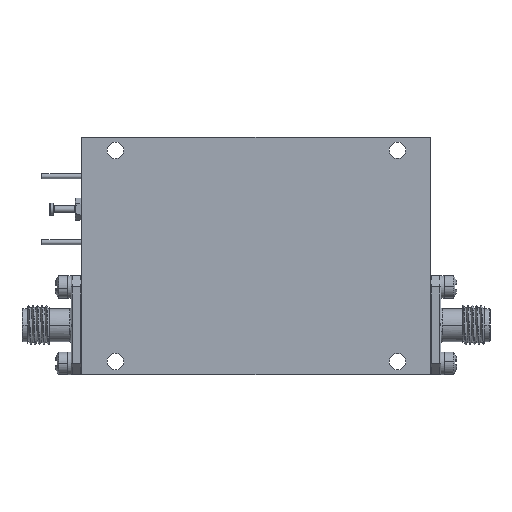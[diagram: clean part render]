
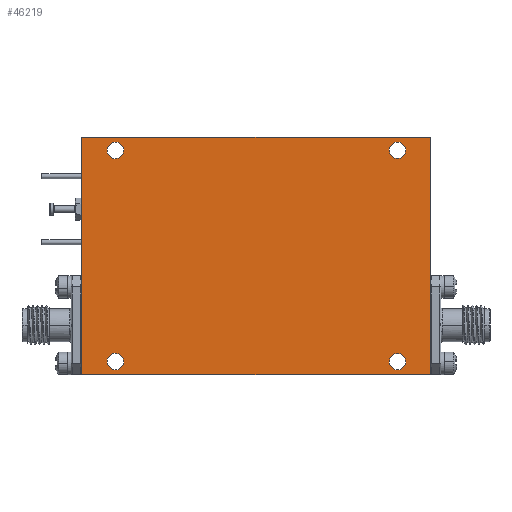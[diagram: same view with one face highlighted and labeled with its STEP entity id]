
A CAD part, front view. The second image highlights one B-rep face of the part: STEP entity #46219.
In plain terms, the highlighted planar face has unit normal (0, -1, 0).
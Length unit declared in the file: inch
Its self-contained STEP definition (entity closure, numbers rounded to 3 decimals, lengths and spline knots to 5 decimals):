
#70 = DIRECTION ( 'NONE',  ( -1., 0., 0. ) ) ;
#364 = CARTESIAN_POINT ( 'NONE',  ( 0.891, -0.392, 0.717 ) ) ;
#413 = CIRCLE ( 'NONE', #2988, 0.052 ) ;
#1249 = CIRCLE ( 'NONE', #27122, 0.052 ) ;
#2005 = CIRCLE ( 'NONE', #51201, 0.052 ) ;
#2864 = DIRECTION ( 'NONE',  ( 0., 1., 0. ) ) ;
#2988 = AXIS2_PLACEMENT_3D ( 'NONE', #35007, #39711, #35254 ) ;
#4227 = ORIENTED_EDGE ( 'NONE', *, *, #34233, .F. ) ;
#4515 = EDGE_CURVE ( 'NONE', #34205, #34588, #2005, .T. ) ;
#4535 = CARTESIAN_POINT ( 'NONE',  ( -1.098, -0.392, -0.748 ) ) ;
#5014 = CIRCLE ( 'NONE', #43380, 0.052 ) ;
#5468 = FACE_BOUND ( 'NONE', #32833, .T. ) ;
#5714 = FACE_BOUND ( 'NONE', #8871, .T. ) ;
#6228 = DIRECTION ( 'NONE',  ( 0., 1., 0. ) ) ;
#6270 = VERTEX_POINT ( 'NONE', #44815 ) ;
#6564 = EDGE_CURVE ( 'NONE', #44704, #47350, #1249, .T. ) ;
#6677 = VERTEX_POINT ( 'NONE', #16974 ) ;
#6903 = VERTEX_POINT ( 'NONE', #28901 ) ;
#7147 = DIRECTION ( 'NONE',  ( 0., 0., 1. ) ) ;
#8112 = DIRECTION ( 'NONE',  ( 0., 0., 1. ) ) ;
#8212 = CARTESIAN_POINT ( 'NONE',  ( 0.891, -0.392, -0.665 ) ) ;
#8871 = EDGE_LOOP ( 'NONE', ( #38789, #35461 ) ) ;
#8984 = EDGE_LOOP ( 'NONE', ( #41508, #32340 ) ) ;
#10712 = DIRECTION ( 'NONE',  ( 0., 0., 1. ) ) ;
#11201 = EDGE_CURVE ( 'NONE', #47350, #44704, #36494, .T. ) ;
#11690 = CARTESIAN_POINT ( 'NONE',  ( -0.885, -0.392, 0.717 ) ) ;
#12063 = DIRECTION ( 'NONE',  ( 0., 0., 1. ) ) ;
#12170 = DIRECTION ( 'NONE',  ( 0., 1., 0. ) ) ;
#12325 = CARTESIAN_POINT ( 'NONE',  ( 0.891, -0.392, 0.665 ) ) ;
#12512 = EDGE_CURVE ( 'NONE', #51239, #14108, #413, .T. ) ;
#13140 = VECTOR ( 'NONE', #40806, 39.37008 ) ;
#13293 = DIRECTION ( 'NONE',  ( 0., 0., -1. ) ) ;
#13741 = DIRECTION ( 'NONE',  ( 0., 0., 1. ) ) ;
#14018 = AXIS2_PLACEMENT_3D ( 'NONE', #41673, #33311, #13741 ) ;
#14108 = VERTEX_POINT ( 'NONE', #39527 ) ;
#15147 = AXIS2_PLACEMENT_3D ( 'NONE', #35353, #43447, #7147 ) ;
#16453 = EDGE_CURVE ( 'NONE', #51582, #6270, #20832, .T. ) ;
#16715 = CARTESIAN_POINT ( 'NONE',  ( -0.885, -0.392, 0.665 ) ) ;
#16886 = VECTOR ( 'NONE', #70, 39.37008 ) ;
#16974 = CARTESIAN_POINT ( 'NONE',  ( 0.891, -0.392, 0.613 ) ) ;
#17485 = PLANE ( 'NONE',  #44224 ) ;
#18939 = CARTESIAN_POINT ( 'NONE',  ( -0.885, -0.392, 0.613 ) ) ;
#19579 = DIRECTION ( 'NONE',  ( 0., 0., 1. ) ) ;
#20787 = CIRCLE ( 'NONE', #26672, 0.052 ) ;
#20832 = LINE ( 'NONE', #21367, #32745 ) ;
#21278 = VECTOR ( 'NONE', #12063, 39.37008 ) ;
#21367 = CARTESIAN_POINT ( 'NONE',  ( 1.098, -0.392, -0.748 ) ) ;
#21454 = CARTESIAN_POINT ( 'NONE',  ( 0.891, -0.392, -0.717 ) ) ;
#21466 = LINE ( 'NONE', #24869, #13140 ) ;
#22142 = ORIENTED_EDGE ( 'NONE', *, *, #12512, .T. ) ;
#22169 = CARTESIAN_POINT ( 'NONE',  ( 0., -0.392, 0. ) ) ;
#23630 = EDGE_CURVE ( 'NONE', #6677, #48557, #5014, .T. ) ;
#24869 = CARTESIAN_POINT ( 'NONE',  ( -1.098, -0.392, 0.748 ) ) ;
#25340 = FACE_OUTER_BOUND ( 'NONE', #31507, .T. ) ;
#26672 = AXIS2_PLACEMENT_3D ( 'NONE', #43073, #2864, #10712 ) ;
#27049 = ORIENTED_EDGE ( 'NONE', *, *, #31253, .F. ) ;
#27122 = AXIS2_PLACEMENT_3D ( 'NONE', #16715, #43622, #47784 ) ;
#28901 = CARTESIAN_POINT ( 'NONE',  ( -1.098, -0.392, 0.748 ) ) ;
#29032 = CIRCLE ( 'NONE', #30682, 0.052 ) ;
#29347 = CARTESIAN_POINT ( 'NONE',  ( -0.885, -0.392, -0.613 ) ) ;
#29391 = EDGE_CURVE ( 'NONE', #37525, #6903, #39742, .T. ) ;
#30682 = AXIS2_PLACEMENT_3D ( 'NONE', #43605, #48296, #19579 ) ;
#31253 = EDGE_CURVE ( 'NONE', #6903, #51582, #21466, .T. ) ;
#31440 = EDGE_CURVE ( 'NONE', #48557, #6677, #29032, .T. ) ;
#31507 = EDGE_LOOP ( 'NONE', ( #48051, #4227, #36921, #27049 ) ) ;
#31892 = CARTESIAN_POINT ( 'NONE',  ( -1.098, -0.392, -0.748 ) ) ;
#32269 = DIRECTION ( 'NONE',  ( 0., 0., 1. ) ) ;
#32340 = ORIENTED_EDGE ( 'NONE', *, *, #6564, .T. ) ;
#32745 = VECTOR ( 'NONE', #13293, 39.37008 ) ;
#32833 = EDGE_LOOP ( 'NONE', ( #22142, #49140 ) ) ;
#33311 = DIRECTION ( 'NONE',  ( 0., 1., 0. ) ) ;
#33412 = FACE_BOUND ( 'NONE', #8984, .T. ) ;
#33512 = EDGE_CURVE ( 'NONE', #34588, #34205, #50978, .T. ) ;
#33990 = ORIENTED_EDGE ( 'NONE', *, *, #31440, .T. ) ;
#34205 = VERTEX_POINT ( 'NONE', #49995 ) ;
#34233 = EDGE_CURVE ( 'NONE', #6270, #37525, #40330, .T. ) ;
#34588 = VERTEX_POINT ( 'NONE', #21454 ) ;
#35007 = CARTESIAN_POINT ( 'NONE',  ( -0.885, -0.392, -0.665 ) ) ;
#35254 = DIRECTION ( 'NONE',  ( 0., 0., 1. ) ) ;
#35353 = CARTESIAN_POINT ( 'NONE',  ( 0.891, -0.392, -0.665 ) ) ;
#35461 = ORIENTED_EDGE ( 'NONE', *, *, #33512, .T. ) ;
#36056 = DIRECTION ( 'NONE',  ( 0., 1., 0. ) ) ;
#36494 = CIRCLE ( 'NONE', #14018, 0.052 ) ;
#36921 = ORIENTED_EDGE ( 'NONE', *, *, #16453, .F. ) ;
#37525 = VERTEX_POINT ( 'NONE', #40208 ) ;
#38789 = ORIENTED_EDGE ( 'NONE', *, *, #4515, .T. ) ;
#39527 = CARTESIAN_POINT ( 'NONE',  ( -0.885, -0.392, -0.717 ) ) ;
#39711 = DIRECTION ( 'NONE',  ( 0., 1., 0. ) ) ;
#39742 = LINE ( 'NONE', #31892, #21278 ) ;
#40208 = CARTESIAN_POINT ( 'NONE',  ( -1.098, -0.392, -0.748 ) ) ;
#40330 = LINE ( 'NONE', #4535, #16886 ) ;
#40806 = DIRECTION ( 'NONE',  ( 1., 0., 0. ) ) ;
#41279 = FACE_BOUND ( 'NONE', #45655, .T. ) ;
#41508 = ORIENTED_EDGE ( 'NONE', *, *, #11201, .T. ) ;
#41673 = CARTESIAN_POINT ( 'NONE',  ( -0.885, -0.392, 0.665 ) ) ;
#43073 = CARTESIAN_POINT ( 'NONE',  ( -0.885, -0.392, -0.665 ) ) ;
#43380 = AXIS2_PLACEMENT_3D ( 'NONE', #12325, #36056, #8112 ) ;
#43447 = DIRECTION ( 'NONE',  ( 0., 1., 0. ) ) ;
#43605 = CARTESIAN_POINT ( 'NONE',  ( 0.891, -0.392, 0.665 ) ) ;
#43622 = DIRECTION ( 'NONE',  ( 0., 1., 0. ) ) ;
#43973 = EDGE_CURVE ( 'NONE', #14108, #51239, #20787, .T. ) ;
#44224 = AXIS2_PLACEMENT_3D ( 'NONE', #22169, #6228, #46693 ) ;
#44704 = VERTEX_POINT ( 'NONE', #18939 ) ;
#44815 = CARTESIAN_POINT ( 'NONE',  ( 1.098, -0.392, -0.748 ) ) ;
#45643 = ORIENTED_EDGE ( 'NONE', *, *, #23630, .T. ) ;
#45655 = EDGE_LOOP ( 'NONE', ( #33990, #45643 ) ) ;
#46219 = ADVANCED_FACE ( 'NONE', ( #25340, #41279, #33412, #5714, #5468 ), #17485, .F. ) ;
#46693 = DIRECTION ( 'NONE',  ( 0., 0., 1. ) ) ;
#47350 = VERTEX_POINT ( 'NONE', #11690 ) ;
#47784 = DIRECTION ( 'NONE',  ( 0., 0., 1. ) ) ;
#48051 = ORIENTED_EDGE ( 'NONE', *, *, #29391, .F. ) ;
#48296 = DIRECTION ( 'NONE',  ( 0., 1., 0. ) ) ;
#48557 = VERTEX_POINT ( 'NONE', #364 ) ;
#49140 = ORIENTED_EDGE ( 'NONE', *, *, #43973, .T. ) ;
#49889 = CARTESIAN_POINT ( 'NONE',  ( 1.098, -0.392, 0.748 ) ) ;
#49995 = CARTESIAN_POINT ( 'NONE',  ( 0.891, -0.392, -0.613 ) ) ;
#50978 = CIRCLE ( 'NONE', #15147, 0.052 ) ;
#51201 = AXIS2_PLACEMENT_3D ( 'NONE', #8212, #12170, #32269 ) ;
#51239 = VERTEX_POINT ( 'NONE', #29347 ) ;
#51582 = VERTEX_POINT ( 'NONE', #49889 ) ;
